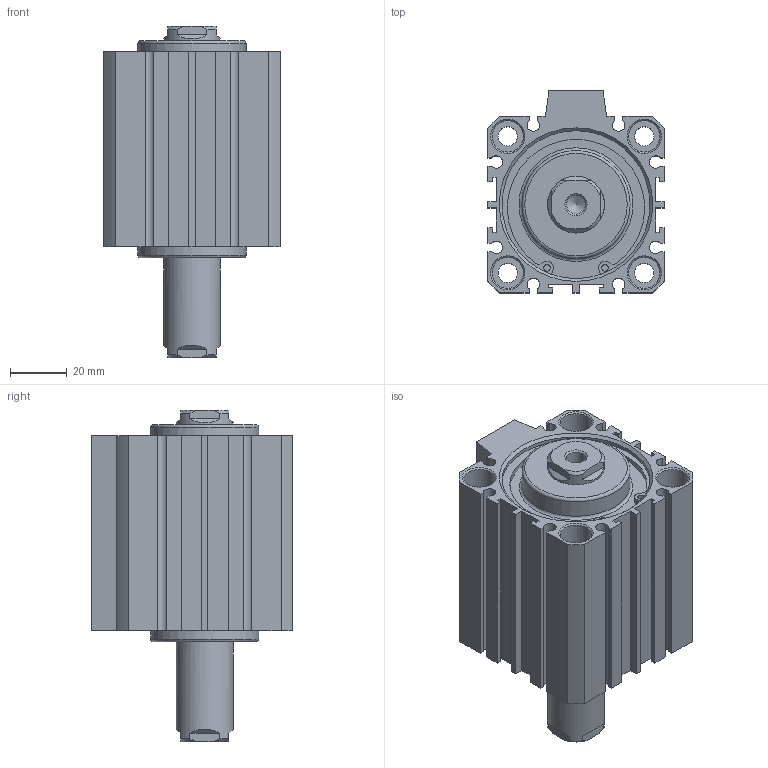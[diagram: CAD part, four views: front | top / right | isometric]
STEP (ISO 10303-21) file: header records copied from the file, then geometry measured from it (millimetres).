
FILE_DESCRIPTION((''),'2;1');
FILE_NAME('I:\3D電子目錄\氣缸\JDD\JDD-S\JDD50-S\JDD50x30-S.stp','2007-02-09T08:40:24',('662F206'),(''),'Autodesk Inventor 10','Autodesk Inventor 10','');
FILE_SCHEMA(('AUTOMOTIVE_DESIGN { 1 0 10303 214 1 1 1 1 }'));
Length unit declared in the file: millimetre
Products named in the file (3): JDD50-S; R 形環 52
Assembly tree (3 placements, depth 2):
  JDD50-S
    JDD50-S
    R 形環 52  x2
Bounding box: 62 x 71 x 116.6 mm (x, y, z)
Volume: 249670.7 mm3; surface area: 52131.2 mm2
Topology: 3 solids, 3 shells, 200 faces, 502 edges, 330 vertices
Faces by surface type: plane 116, cylinder 52, cone 24, bspline 6, torus 2
Full cylindrical faces by diameter (mm): 2.3 x4, 2.7 x2, 6.8 x4, 11 x8, 20 x2, 38 x2, 52 x4, 55 x2
Entity records: 5511 total; most frequent: CARTESIAN_POINT 1094, DIRECTION 908, ORIENTED_EDGE 824, EDGE_CURVE 412, AXIS2_PLACEMENT_3D 324, VERTEX_POINT 300, EDGE_LOOP 272, VECTOR 260
